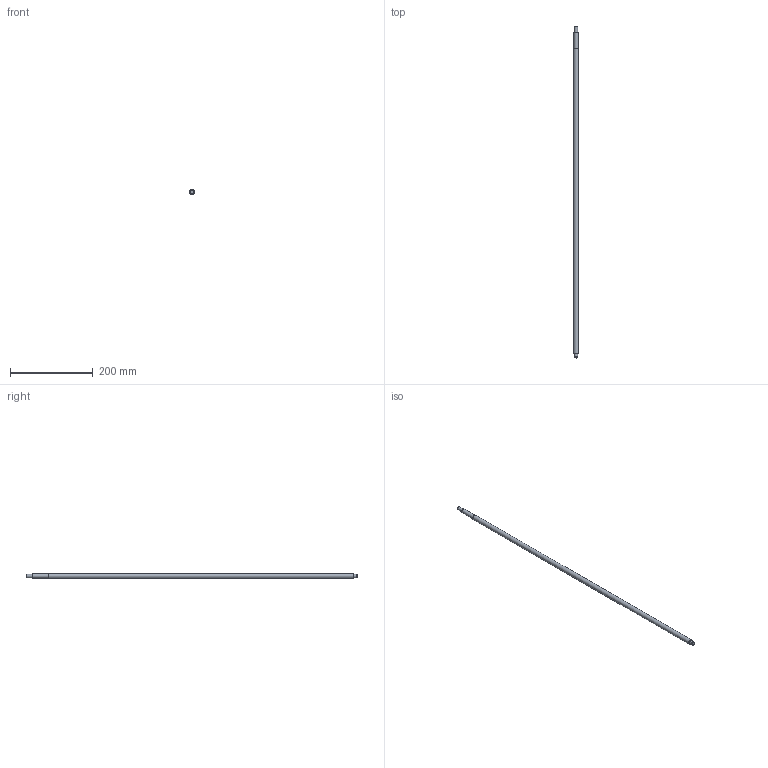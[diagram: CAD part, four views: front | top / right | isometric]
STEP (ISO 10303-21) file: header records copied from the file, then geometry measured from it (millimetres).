
FILE_DESCRIPTION(/* description */ (''),/* implementation_level */ '2;1');
FILE_NAME(/* name */ 'C:\Users\David\Desktop\stepFiles\Profilfuehrung\KUS1204x800.stp',/* time_stamp */ '2018-06-24T15:05:14+02:00',/* author */ ('David'),/* organization */ (''),/* preprocessor_version */ 'ST-DEVELOPER v17',/* originating_system */ 'Autodesk Inventor 2019',/* authorisation */ '');
FILE_SCHEMA (('AUTOMOTIVE_DESIGN { 1 0 10303 214 3 1 1 }'));
Length unit declared in the file: millimetre
Products named in the file (1): SFU1204xvariabel
Bounding box: 12 x 800 x 12 mm (x, y, z)
Volume: 87548.9 mm3; surface area: 29819.6 mm2
Topology: 1 solids, 1 shells, 15 faces, 34 edges, 26 vertices
Faces by surface type: plane 7, cylinder 6, cone 2
Full cylindrical faces by diameter (mm): 7.6 x1, 8 x3, 10 x1, 12 x1
Entity records: 493 total; most frequent: DIRECTION 92, CARTESIAN_POINT 76, ORIENTED_EDGE 68, AXIS2_PLACEMENT_3D 42, EDGE_CURVE 34, CIRCLE 26, VERTEX_POINT 26, EDGE_LOOP 20
